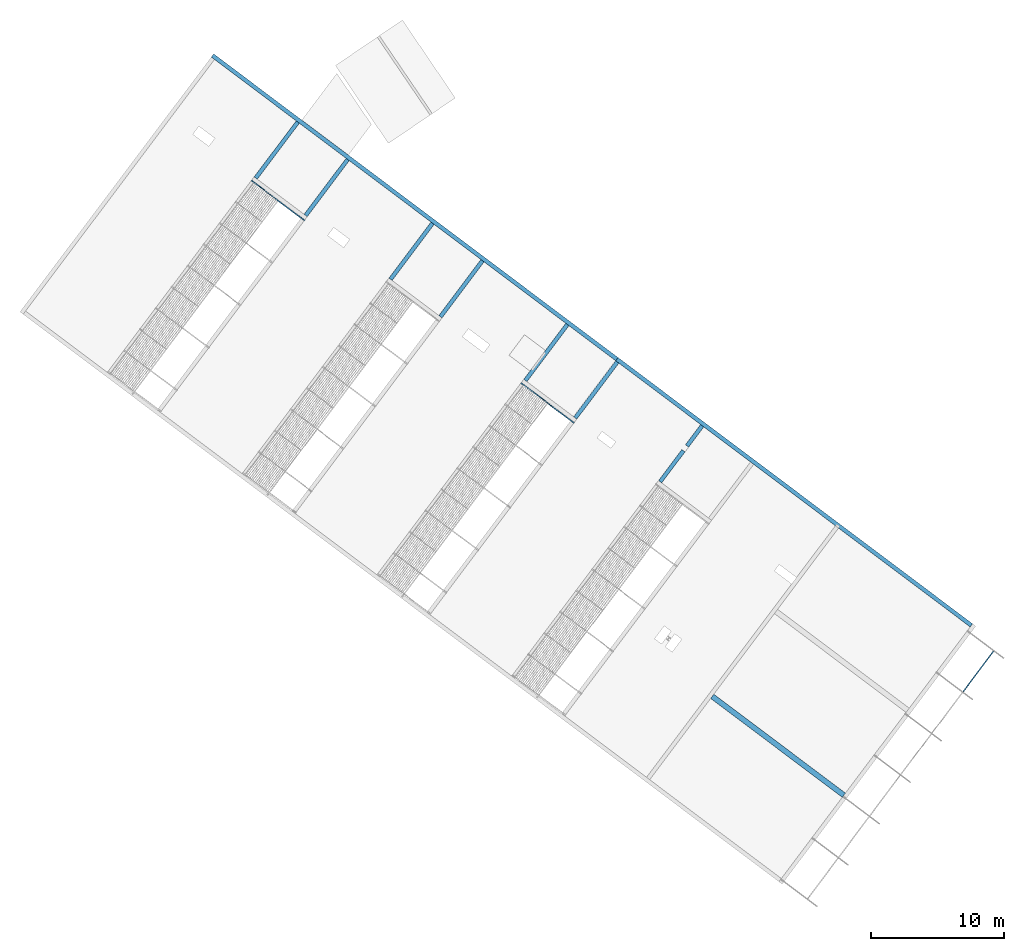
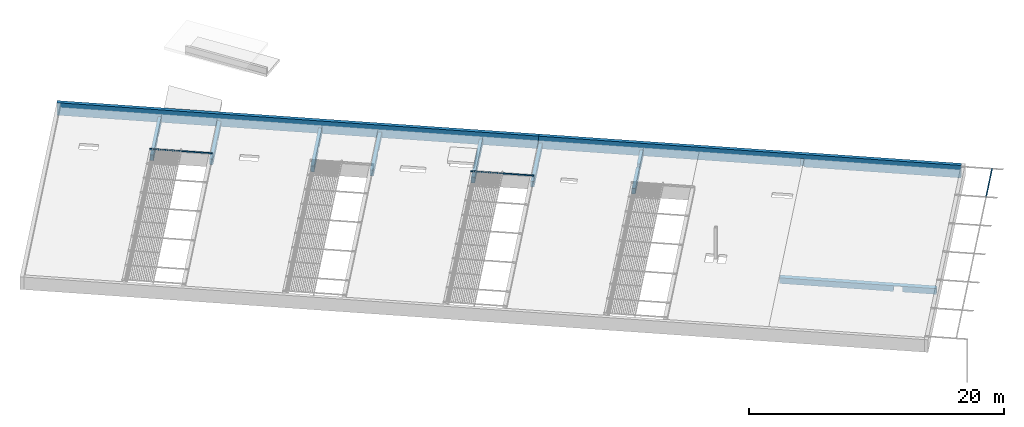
# One storey, part 91 of 95: 13 beams.
"""IFC2X3 building model written with IfcOpenShell, lengths in metres."""

from ifc_helpers import new_model, entity, si_unit, converted_unit, derived_unit, direction, frame, frame_2d, origin, place, context, subcontext, project, spatial, polyline, circle_curve, parameter, trimmed, segment, composite_curve, rectangle, outline, extrude, faceted_brep, source, transform, mapped, material, type_object, type_shapes, element, save


model = new_model("IFC2X3")

# Units and contexts
model_context = context("Model", 3, precision=1e-05, world=origin(), true_north=direction((6.123031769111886e-17, 1.0)))
body_context = subcontext(model_context, "Body", "Model", "MODEL_VIEW")
ifc_project = project(units=[si_unit("LENGTHUNIT", "METRE"), si_unit("AREAUNIT", "SQUARE_METRE"), si_unit("VOLUMEUNIT", "CUBIC_METRE"), converted_unit("PLANEANGLEUNIT", "DEGREE", entity("IfcRatioMeasure", 0.017453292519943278), si_unit("PLANEANGLEUNIT", "RADIAN"), dimensions=[0, 0, 0, 0, 0, 0, 0]), si_unit("MASSUNIT", "GRAM", prefix="KILO"), derived_unit("MASSDENSITYUNIT", [(si_unit("MASSUNIT", "GRAM", prefix="KILO"), 1), (si_unit("LENGTHUNIT", "METRE"), -3)]), derived_unit("IONCONCENTRATIONUNIT", [(si_unit("MASSUNIT", "GRAM", prefix="KILO"), 1), (si_unit("LENGTHUNIT", "METRE"), -3)]), derived_unit("MOMENTOFINERTIAUNIT", [(si_unit("LENGTHUNIT", "METRE"), 4)]), si_unit("TIMEUNIT", "SECOND"), si_unit("FREQUENCYUNIT", "HERTZ"), si_unit("THERMODYNAMICTEMPERATUREUNIT", "DEGREE_CELSIUS"), derived_unit("THERMALTRANSMITTANCEUNIT", [(si_unit("MASSUNIT", "GRAM", prefix="KILO"), 1), (si_unit("THERMODYNAMICTEMPERATUREUNIT", "KELVIN"), -1), (si_unit("TIMEUNIT", "SECOND"), -3)]), derived_unit("THERMALCONDUCTANCEUNIT", [(si_unit("MASSUNIT", "GRAM", prefix="KILO"), 1), (si_unit("THERMODYNAMICTEMPERATUREUNIT", "KELVIN"), -1), (si_unit("TIMEUNIT", "SECOND"), -3), (si_unit("LENGTHUNIT", "METRE"), 1)]), derived_unit("VOLUMETRICFLOWRATEUNIT", [(si_unit("LENGTHUNIT", "METRE"), 3), (si_unit("TIMEUNIT", "SECOND"), -1)]), derived_unit("MASSFLOWRATEUNIT", [(si_unit("MASSUNIT", "GRAM", prefix="KILO"), 1), (si_unit("TIMEUNIT", "SECOND"), -1)]), derived_unit("ROTATIONALFREQUENCYUNIT", [(si_unit("TIMEUNIT", "SECOND"), -1)]), si_unit("ELECTRICCURRENTUNIT", "AMPERE"), si_unit("ELECTRICVOLTAGEUNIT", "VOLT"), si_unit("POWERUNIT", "WATT"), si_unit("FORCEUNIT", "NEWTON", prefix="KILO"), si_unit("ILLUMINANCEUNIT", "LUX"), si_unit("LUMINOUSFLUXUNIT", "LUMEN"), si_unit("LUMINOUSINTENSITYUNIT", "CANDELA"), derived_unit("USERDEFINED", [(si_unit("MASSUNIT", "GRAM", prefix="KILO"), -1), (si_unit("LENGTHUNIT", "METRE"), -2), (si_unit("TIMEUNIT", "SECOND"), 3), (si_unit("LUMINOUSFLUXUNIT", "LUMEN"), 1)]), derived_unit("USERDEFINED", [(si_unit("MASSUNIT", "GRAM", prefix="KILO"), 1), (si_unit("TIMEUNIT", "SECOND"), -3), (si_unit("LENGTHUNIT", "METRE"), 3), (si_unit("ELECTRICCURRENTUNIT", "AMPERE"), -2)]), derived_unit("SOUNDPOWERUNIT", [(si_unit("MASSUNIT", "GRAM", prefix="KILO"), 1), (si_unit("TIMEUNIT", "SECOND"), -3), (si_unit("LENGTHUNIT", "METRE"), 2)]), derived_unit("SOUNDPRESSUREUNIT", [(si_unit("MASSUNIT", "GRAM", prefix="KILO"), 1), (si_unit("LENGTHUNIT", "METRE"), -1), (si_unit("TIMEUNIT", "SECOND"), -2)]), derived_unit("LINEARVELOCITYUNIT", [(si_unit("LENGTHUNIT", "METRE"), 1), (si_unit("TIMEUNIT", "SECOND"), -1)]), si_unit("PRESSUREUNIT", "PASCAL"), derived_unit("USERDEFINED", [(si_unit("MASSUNIT", "GRAM", prefix="KILO"), 1), (si_unit("LENGTHUNIT", "METRE"), -2), (si_unit("TIMEUNIT", "SECOND"), -2)]), derived_unit("LINEARFORCEUNIT", [(si_unit("MASSUNIT", "GRAM", prefix="KILO"), 1), (si_unit("TIMEUNIT", "SECOND"), -2)]), derived_unit("PLANARFORCEUNIT", [(si_unit("MASSUNIT", "GRAM", prefix="KILO"), 1), (si_unit("LENGTHUNIT", "METRE"), -1), (si_unit("TIMEUNIT", "SECOND"), -2)]), derived_unit("SPECIFICHEATCAPACITYUNIT", [(si_unit("THERMODYNAMICTEMPERATUREUNIT", "KELVIN"), -1), (si_unit("LENGTHUNIT", "METRE"), 2), (si_unit("TIMEUNIT", "SECOND"), -2)]), derived_unit("HEATINGVALUEUNIT", [(si_unit("LENGTHUNIT", "METRE"), 2), (si_unit("TIMEUNIT", "SECOND"), -2)]), derived_unit("VAPORPERMEABILITYUNIT", [(si_unit("LENGTHUNIT", "METRE"), -1), (si_unit("TIMEUNIT", "SECOND"), 1)]), derived_unit("DYNAMICVISCOSITYUNIT", [(si_unit("MASSUNIT", "GRAM", prefix="KILO"), 1), (si_unit("TIMEUNIT", "SECOND"), -1), (si_unit("LENGTHUNIT", "METRE"), -1)]), derived_unit("THERMALEXPANSIONCOEFFICIENTUNIT", [(si_unit("THERMODYNAMICTEMPERATUREUNIT", "KELVIN"), -1)]), derived_unit("MODULUSOFELASTICITYUNIT", [(si_unit("MASSUNIT", "GRAM", prefix="KILO"), 1), (si_unit("LENGTHUNIT", "METRE"), -1), (si_unit("TIMEUNIT", "SECOND"), -2)]), derived_unit("ISOTHERMALMOISTURECAPACITYUNIT", [(si_unit("LENGTHUNIT", "METRE"), 3), (si_unit("MASSUNIT", "GRAM", prefix="KILO"), -1)]), derived_unit("MOISTUREDIFFUSIVITYUNIT", [(si_unit("TIMEUNIT", "SECOND"), -1), (si_unit("LENGTHUNIT", "METRE"), 2)])], contexts=[model_context])

# Site, building, storey
site_placement = place(None, origin())
site = spatial("IfcSite", under=ifc_project, at=site_placement, Name="Default", CompositionType="ELEMENT")
building_placement = place(site_placement, frame((0.0, 0.0, 235.0), z_axis=(0.0, 0.0, 1.0), x_axis=(-0.7996477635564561, 0.6004693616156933, 0.0)))
building = spatial("IfcBuilding", under=site, at=building_placement, CompositionType="ELEMENT")
storey_placement = place(building_placement, frame((0.0, 0.0, 3.400000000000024)))
storey = spatial("IfcBuildingStorey", under=building, at=storey_placement, Name="PC- Coberta STR", CompositionType="ELEMENT", Elevation=3.400000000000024)

# Beams
ifc_material_1 = material(Name="_Formigó- T1- STR")
beam_type_1 = type_object("IfcBeamType", Name="STR- V- Formigó- Rectangular- T1:30x120 cm", PredefinedType="NOTDEFINED")
beam_1_placement = place(storey_placement, frame((3.245147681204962, -42.34019175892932, -0.8000000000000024), z_axis=(0.0, 0.0, 1.0), x_axis=(-1.0, 0.0, 0.0)))
element("IfcBeam", 1, at=beam_1_placement, inside=storey, type_object=beam_type_1, material=ifc_material_1, Name="STR- V- Formigó- Rectangular- T1:30x120 cm", ObjectType="STR- V- Formigó- Rectangular- T1:30x120 cm", context=body_context, shape_type="Brep", body=[
    faceted_brep([(-33.4, 0.0, 1.2000000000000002), (-33.39999999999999, -0.30000000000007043, 1.2000000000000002), (0.0, -0.30000000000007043, 1.2000000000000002), (0.0, 0.0, 1.2000000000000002), (-12.699999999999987, -0.30000000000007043, 0.8000000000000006), (-12.399999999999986, -0.30000000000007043, 0.8000000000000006), (-12.399999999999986, -0.30000000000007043, 0.5500000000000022), (-12.399999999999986, -0.30000000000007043, 0.0), (-6.800000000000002, -0.30000000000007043, 0.0), (0.0, -0.30000000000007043, 0.0), (0.0, -0.30000000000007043, 0.5500000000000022), (0.0, -0.30000000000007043, 0.8000000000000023), (-33.4, -0.30000000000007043, 0.8000000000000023), (-33.4, -0.30000000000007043, 0.5500000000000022), (-33.4, -0.30000000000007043, 0.0), (-33.099999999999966, -0.30000000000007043, 0.0), (-25.39999999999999, -0.3000000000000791, 0.0), (-25.09999999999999, -0.30000000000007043, 0.0), (-20.699999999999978, -0.30000000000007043, 0.0), (-20.399999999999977, -0.30000000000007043, 0.0), (-12.699999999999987, -0.30000000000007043, 0.0), (-12.699999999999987, -0.30000000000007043, 0.5500000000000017), (-12.399999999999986, -0.13729999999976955, 0.0), (-12.699999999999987, -0.13729999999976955, 0.0), (-33.39999999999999, 0.0, 0.0), (-6.8000000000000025, 0.0, 0.0), (0.0, 0.0, 0.0), (-12.399999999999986, -0.13729999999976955, 0.8000000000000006), (-12.699999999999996, -0.13729999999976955, 0.8000000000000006)], [[[0, 1, 2, 3]], [[4, 5, 6, 7, 8, 9, 10, 11, 2, 1, 12, 13, 14, 15, 16, 17, 18, 19, 20, 21]], [[22, 23, 20, 19, 18, 17, 16, 15, 14, 24, 25, 26, 9, 8, 7]], [[24, 0, 3, 26, 25]], [[27, 28, 23, 22]], [[28, 27, 5, 4]], [[27, 22, 7, 6, 5]], [[23, 28, 4, 21, 20]], [[3, 2, 11, 10, 9, 26]], [[0, 24, 14, 13, 12, 1]]]),
])
beam_2_placement = place(storey_placement, frame((74.59514768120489, -42.19019175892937, 0.4), z_axis=(0.0, 0.0, 1.0), x_axis=(-1.0, 0.0, 0.0)))
element("IfcBeam", 2, at=beam_2_placement, inside=storey, type_object=beam_type_1, material=ifc_material_1, Name="STR- V- Formigó- Rectangular- T1:30x120 cm", ObjectType="STR- V- Formigó- Rectangular- T1:30x120 cm", context=body_context, shape_type="SweptSolid", body=[
    extrude(rectangle(XDim=1.1999999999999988, YDim=0.30000000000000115, at=frame_2d((0.0, 1.2127798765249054e-13), x_axis=(1.0, 0.0))), frame((-0.14999999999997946, 0.0, -0.6000000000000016), z_axis=(1.0, 0.0, 0.0), x_axis=(0.0, 0.0, -1.0)), (0.0, 0.0, 1.0), 38.09999999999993),
])
beam_type_2 = type_object("IfcBeamType", Name="STR- V- Formigó- Rectangular- T1:30x80 cm", PredefinedType="NOTDEFINED")
beam_3_placement = place(storey_placement, frame((49.04514768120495, -42.040191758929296, -0.800000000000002), z_axis=(0.0, 0.0, 1.0), x_axis=(0.0, -1.0, 0.0)))
element("IfcBeam", 3, at=beam_3_placement, inside=storey, type_object=beam_type_2, material=ifc_material_1, Name="STR- V- Formigó- Rectangular- T1:30x80 cm", ObjectType="STR- V- Formigó- Rectangular- T1:30x80 cm", context=body_context, shape_type="Brep", body=[
    faceted_brep([(-1.8999999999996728, 0.0, 0.5000000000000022), (-1.8999999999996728, 0.0, 0.0), (0.0, 0.0, 0.0), (0.0, 0.0, 0.5500000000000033), (-5.274999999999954, 0.0, 0.5500000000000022), (-5.274999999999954, 0.0, 0.0), (-2.3499999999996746, 0.0, 0.0), (-2.3499999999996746, 0.0, 0.5000000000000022), (-1.8999999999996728, 0.3000000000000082, 0.0), (0.0, 0.3000000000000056, 0.0), (-1.8999999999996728, 0.3000000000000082, 0.5000000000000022), (-2.3499999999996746, 0.30000000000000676, 0.5000000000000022), (-2.3499999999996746, 0.30000000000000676, 0.0), (-5.274999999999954, 0.3000000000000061, 0.0), (-5.274999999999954, 0.3000000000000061, 0.5500000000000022), (0.0, 0.3000000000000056, 0.5500000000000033)], [[[0, 1, 2, 3, 4, 5, 6, 7]], [[1, 8, 9, 2]], [[8, 10, 11, 12, 13, 14, 15, 9]], [[3, 15, 14, 4]], [[0, 10, 8, 1]], [[11, 7, 6, 12]], [[10, 0, 7, 11]], [[12, 6, 5, 13]], [[3, 2, 9, 15]], [[5, 4, 14, 13]]]),
])
beam_4_placement = place(storey_placement, frame((53.745147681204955, -42.04019175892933, -0.8000000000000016), z_axis=(0.0, 0.0, 1.0), x_axis=(0.0, -1.0, 0.0)))
element("IfcBeam", 4, at=beam_4_placement, inside=storey, type_object=beam_type_2, material=ifc_material_1, Name="STR- V- Formigó- Rectangular- T1:30x80 cm", ObjectType="STR- V- Formigó- Rectangular- T1:30x80 cm", context=body_context, shape_type="Brep", body=[
    faceted_brep([(0.0, 0.29999999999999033, 0.5500000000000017), (0.0, 0.29999999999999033, 0.0), (-1.8999999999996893, 0.29999999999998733, 0.0), (-1.8999999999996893, 0.29999999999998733, 0.5000000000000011), (-2.349999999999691, 0.2999999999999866, 0.5000000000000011), (-2.349999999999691, 0.2999999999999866, 0.0), (-5.27499999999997, 0.2999999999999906, 0.0), (-5.27499999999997, 0.2999999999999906, 0.5500000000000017), (0.0, 0.0, 0.0), (-1.8999999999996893, 0.0, 0.0), (0.0, 0.0, 0.5500000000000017), (-5.27499999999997, 0.0, 0.5500000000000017), (-5.27499999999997, 0.0, 0.0), (-2.349999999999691, 0.0, 0.0), (-2.349999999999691, 0.0, 0.5000000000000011), (-1.8999999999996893, 0.0, 0.5000000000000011)], [[[0, 1, 2, 3, 4, 5, 6, 7]], [[1, 8, 9, 2]], [[8, 10, 11, 12, 13, 14, 15, 9]], [[10, 0, 7, 11]], [[8, 1, 0, 10]], [[15, 3, 2, 9]], [[4, 14, 13, 5]], [[3, 15, 14, 4]], [[5, 13, 12, 6]], [[7, 6, 12, 11]]]),
])
beam_5_placement = place(storey_placement, frame((61.745147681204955, -42.04019175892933, -0.800000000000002), z_axis=(0.0, 0.0, 1.0), x_axis=(0.0, -1.0, 0.0)))
element("IfcBeam", 5, at=beam_5_placement, inside=storey, type_object=beam_type_2, material=ifc_material_1, Name="STR- V- Formigó- Rectangular- T1:30x80 cm", ObjectType="STR- V- Formigó- Rectangular- T1:30x80 cm", context=body_context, shape_type="Brep", body=[
    faceted_brep([(-5.274999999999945, 0.0, 0.0), (-2.3499999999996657, 0.0, 0.0), (-2.3499999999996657, 0.0, 0.5000000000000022), (-1.8999999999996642, 0.0, 0.5000000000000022), (-1.8999999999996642, 0.0, 0.0), (0.0, 0.0, 0.0), (0.0, 0.0, 0.5500000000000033), (-5.274999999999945, 0.0, 0.5500000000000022), (-1.8999999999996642, 0.3000000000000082, 0.0), (0.0, 0.3000000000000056, 0.0), (-2.3499999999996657, 0.30000000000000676, 0.0), (-5.274999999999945, 0.3000000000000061, 0.0), (-5.274999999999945, 0.3000000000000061, 0.5500000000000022), (0.0, 0.3000000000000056, 0.5500000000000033), (-1.8999999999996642, 0.3000000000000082, 0.5000000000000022), (-2.3499999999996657, 0.30000000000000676, 0.5000000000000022)], [[[0, 1, 2, 3, 4, 5, 6, 7]], [[4, 8, 9, 5]], [[10, 11, 12, 13, 9, 8, 14, 15]], [[11, 0, 7, 12]], [[3, 14, 8, 4]], [[15, 2, 1, 10]], [[14, 3, 2, 15]], [[0, 11, 10, 1]], [[7, 6, 13, 12]], [[6, 5, 9, 13]]]),
])
beam_6_placement = place(storey_placement, frame((66.44514768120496, -42.04019175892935, -0.8000000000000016), z_axis=(0.0, 0.0, 1.0), x_axis=(0.0, -1.0, 0.0)))
element("IfcBeam", 6, at=beam_6_placement, inside=storey, type_object=beam_type_2, material=ifc_material_1, Name="STR- V- Formigó- Rectangular- T1:30x80 cm", ObjectType="STR- V- Formigó- Rectangular- T1:30x80 cm", context=body_context, shape_type="Brep", body=[
    faceted_brep([(-2.3499999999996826, 0.29999999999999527, 0.0), (-5.274999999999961, 0.29999999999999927, 0.0), (-5.274999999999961, 0.29999999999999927, 0.5500000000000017), (0.0, 0.299999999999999, 0.5500000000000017), (0.0, 0.299999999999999, 0.0), (-1.8999999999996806, 0.299999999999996, 0.0), (-1.8999999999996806, 0.299999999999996, 0.5000000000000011), (-2.3499999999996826, 0.29999999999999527, 0.5000000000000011), (-1.8999999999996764, 0.0, 0.0), (0.0, 0.0, 0.0), (-5.274999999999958, 0.0, 0.0), (-2.349999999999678, 0.0, 0.0), (-2.349999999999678, 0.0, 0.5000000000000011), (-1.8999999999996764, 0.0, 0.5000000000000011), (0.0, 0.0, 0.5500000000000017), (-5.274999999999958, 0.0, 0.5500000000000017)], [[[0, 1, 2, 3, 4, 5, 6, 7]], [[8, 5, 4, 9]], [[10, 11, 12, 13, 8, 9, 14, 15]], [[1, 10, 15, 2]], [[13, 6, 5, 8]], [[7, 12, 11, 0]], [[6, 13, 12, 7]], [[10, 1, 0, 11]], [[3, 2, 15, 14]], [[4, 3, 14, 9]]]),
])
beam_7_placement = place(storey_placement, frame((36.34514768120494, -42.04019175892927, -0.800000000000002), z_axis=(0.0, 0.0, 1.0), x_axis=(0.0, -1.0, 0.0)))
element("IfcBeam", 7, at=beam_7_placement, inside=storey, type_object=beam_type_2, material=ifc_material_1, Name="STR- V- Formigó- Rectangular- T1:30x80 cm", ObjectType="STR- V- Formigó- Rectangular- T1:30x80 cm", context=body_context, shape_type="Brep", body=[
    faceted_brep([(-5.274999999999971, 0.0, 0.0), (-2.349999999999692, 0.0, 0.0), (-2.349999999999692, 0.0, 0.5000000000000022), (-1.8999999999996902, 0.0, 0.5000000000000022), (-1.8999999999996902, 0.0, 0.0), (0.0, 0.0, 0.0), (0.0, 0.0, 0.5500000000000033), (-5.274999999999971, 0.0, 0.5500000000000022), (-1.8999999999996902, 0.3000000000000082, 0.0), (0.0, 0.30000000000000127, 0.0), (-2.349999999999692, 0.30000000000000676, 0.0), (-5.274999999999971, 0.3000000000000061, 0.0), (-5.274999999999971, 0.3000000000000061, 0.5500000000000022), (0.0, 0.3000000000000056, 0.5500000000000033), (-1.8999999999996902, 0.3000000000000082, 0.5000000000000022), (-2.349999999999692, 0.30000000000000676, 0.5000000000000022)], [[[0, 1, 2, 3, 4, 5, 6, 7]], [[4, 8, 9, 5]], [[10, 11, 12, 13, 9, 8, 14, 15]], [[11, 0, 7, 12]], [[3, 14, 8, 4]], [[15, 2, 1, 10]], [[14, 3, 2, 15]], [[0, 11, 10, 1]], [[7, 6, 13, 12]], [[6, 5, 9, 13]]]),
])
beam_8_placement = place(storey_placement, frame((41.04514768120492, -42.040191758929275, -0.8000000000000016), z_axis=(0.0, 0.0, 1.0), x_axis=(0.0, -1.0, 0.0)))
element("IfcBeam", 8, at=beam_8_placement, inside=storey, type_object=beam_type_2, material=ifc_material_1, Name="STR- V- Formigó- Rectangular- T1:30x80 cm", ObjectType="STR- V- Formigó- Rectangular- T1:30x80 cm", context=body_context, shape_type="Brep", body=[
    faceted_brep([(-2.3499999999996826, 0.3000000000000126, 0.0), (-5.274999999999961, 0.3000000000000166, 0.0), (-5.274999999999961, 0.3000000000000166, 0.5500000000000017), (-4.3470018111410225, 0.3000000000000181, 0.5500000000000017), (-2.707001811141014, 0.3000000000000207, 0.5500000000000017), (0.0, 0.3000000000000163, 0.5500000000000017), (0.0, 0.3000000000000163, 0.0), (-1.8999999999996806, 0.3000000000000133, 0.0), (-1.8999999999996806, 0.3000000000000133, 0.5000000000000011), (-2.3499999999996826, 0.3000000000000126, 0.5000000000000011), (-1.8999999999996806, 0.0, 0.0), (0.0, 0.0, 0.0), (-5.274999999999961, 0.0, 0.0), (-2.3499999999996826, 0.0, 0.0), (-2.3499999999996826, 0.0, 0.5000000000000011), (-1.8999999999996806, 0.0, 0.5000000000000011), (0.0, 0.0, 0.5500000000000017), (-5.274999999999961, 0.0, 0.5500000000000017)], [[[0, 1, 2, 3, 4, 5, 6, 7, 8, 9]], [[10, 7, 6, 11]], [[12, 13, 14, 15, 10, 11, 16, 17]], [[1, 12, 17, 2]], [[15, 8, 7, 10]], [[9, 14, 13, 0]], [[8, 15, 14, 9]], [[12, 1, 0, 13]], [[3, 2, 17, 16, 5, 4]], [[6, 5, 16, 11]]]),
])
beam_type_3 = type_object("IfcBeamType", Name="STR- V- Formigó- Rectangular- T1:40x80 cm", PredefinedType="NOTDEFINED")
beam_9_placement = place(storey_placement, frame((3.2451476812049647, -26.39019175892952, -0.8000000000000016)))
element("IfcBeam", 9, at=beam_9_placement, inside=storey, type_object=beam_type_3, material=ifc_material_1, Name="STR- V- Formigó- Rectangular- T1:40x80 cm", ObjectType="STR- V- Formigó- Rectangular- T1:40x80 cm", context=body_context, shape_type="Brep", body=[
    faceted_brep([(3.4000000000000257, 0.0, 0.0), (12.400000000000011, 0.0, 0.0), (12.400000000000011, 0.0, 0.5500000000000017), (0.0, 0.0, 0.5500000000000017), (0.0, 0.0, 0.0), (2.700000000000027, 0.0, 0.0), (2.700000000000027, 0.0, 0.5000000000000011), (3.4000000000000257, 0.0, 0.5000000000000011), (12.400000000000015, 0.400000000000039, 0.0), (3.400000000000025, 0.400000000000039, 0.0), (3.400000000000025, 0.400000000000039, 0.5000000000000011), (2.7000000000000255, 0.400000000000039, 0.5000000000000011), (2.7000000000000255, 0.400000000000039, 0.0), (0.0, 0.400000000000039, 0.0), (0.0, 0.400000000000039, 0.5500000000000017), (12.400000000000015, 0.400000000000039, 0.5500000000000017)], [[[0, 1, 2, 3, 4, 5, 6, 7]], [[8, 1, 0, 9]], [[8, 9, 10, 11, 12, 13, 14, 15]], [[1, 8, 15, 2]], [[7, 10, 9, 0]], [[11, 6, 5, 12]], [[10, 7, 6, 11]], [[12, 5, 4, 13]], [[13, 4, 3, 14]], [[3, 2, 15, 14]]]),
])
beam_type_4 = type_object("IfcBeamType", Name="STR- V- Formigó- Rectangular- T1:30x80 cm", PredefinedType="BEAM", material=ifc_material_1)
shared_shape = source(origin(), body_context, "Body", "SweptSolid", [
    extrude(rectangle(XDim=0.5500000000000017, YDim=0.3000000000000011, at=frame_2d((-2.1649348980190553e-15, 0.0), x_axis=(0.0, 1.0))), frame((28.49514768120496, -40.140191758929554, 2.875000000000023), z_axis=(0.0, -1.0, 0.0), x_axis=(-1.0, 0.0, 0.0)), (0.0, 0.0, 1.0), 1.8999999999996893),
    extrude(rectangle(XDim=0.5500000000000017, YDim=0.30000000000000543, at=frame_2d((2.1649348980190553e-15, 0.0), x_axis=(0.0, 1.0))), frame((28.495147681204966, -36.76519175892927, 2.875000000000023), z_axis=(0.0, -1.0, 0.0), x_axis=(-1.0, 0.0, 0.0)), (0.0, 0.0, 1.0), 2.92500000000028),
])
type_shapes(beam_type_4, [shared_shape])
beam_10_placement = place(storey_placement, frame((0.0, 0.0, -3.400000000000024)))
element("IfcBeam", 10, at=beam_10_placement, inside=storey, type_object=beam_type_4, material=ifc_material_1, Name="STR- V- Formigó- Rectangular- T1:30x80 cm", ObjectType="STR- V- Formigó- Rectangular- T1:30x80 cm", context=body_context, shape_type="MappedRepresentation", body=[
    mapped(shared_shape, transform((0.0, 0.0, 0.0), scale=1.0)),
])
ifc_material_2 = material(Name="_Acer- STR")
beam_type_5 = type_object("IfcBeamType", Name="STR- V- Acer- RHS- Rectangular- T1:120x60RHS", PredefinedType="NOTDEFINED")
beam_11_placement = place(storey_placement, frame((0.7163088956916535, -41.64701323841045, 0.49840472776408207), z_axis=(0.0, 0.0, 1.0), x_axis=(0.0, -1.0, 0.0)))
element("IfcBeam", 11, at=beam_11_placement, inside=storey, type_object=beam_type_5, material=ifc_material_2, Name="STR- V- Acer- RHS- Rectangular- T1:120x60RHS", ObjectType="STR- V- Acer- RHS- Rectangular- T1:120x60RHS", context=body_context, shape_type="SweptSolid", body=[
    extrude(outline(composite_curve([segment(trimmed(circle_curve(frame_2d((-0.022000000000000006, -0.05200000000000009), x_axis=(1.0, 0.0)), 0.008), [parameter(180.0000000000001)], [parameter(269.99999999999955)], True, "PARAMETER"), True, "CONTINUOUS"), segment(polyline([(-0.021999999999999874, -0.0599999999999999), (0.022000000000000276, -0.0599999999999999)]), True, "CONTINUOUS"), segment(trimmed(circle_curve(frame_2d((0.022000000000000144, -0.05200000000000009), x_axis=(1.0, 0.0)), 0.008), [parameter(269.99999999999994)], [parameter(5.088887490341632e-14)], True, "PARAMETER"), True, "CONTINUOUS"), segment(polyline([(0.030000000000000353, -0.05200000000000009), (0.030000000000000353, 0.05200000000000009)]), True, "CONTINUOUS"), segment(trimmed(circle_curve(frame_2d((0.022000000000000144, 0.05200000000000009), x_axis=(1.0, 0.0)), 0.008), [parameter(359.99999999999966)], [parameter(89.99999999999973)], True, "PARAMETER"), True, "CONTINUOUS"), segment(polyline([(0.022000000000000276, 0.059999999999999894), (-0.021999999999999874, 0.059999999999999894)]), True, "CONTINUOUS"), segment(trimmed(circle_curve(frame_2d((-0.022000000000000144, 0.05200000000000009), x_axis=(1.0, 0.0)), 0.008), [parameter(90.00000000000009)], [parameter(180.00000000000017)], True, "PARAMETER"), True, "CONTINUOUS"), segment(polyline([(-0.02999999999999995, 0.05200000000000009), (-0.02999999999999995, -0.05200000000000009)]), True, "CONTINUOUS")], self_intersect=False), holes=[composite_curve([segment(polyline([(0.022000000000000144, -0.05600000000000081), (-0.021999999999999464, -0.05600000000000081)]), True, "CONTINUOUS"), segment(trimmed(circle_curve(frame_2d((-0.021999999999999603, -0.05200000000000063), x_axis=(1.0, 0.0)), 0.004), [parameter(179.99999999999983)], [parameter(269.9999999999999)], True, "PARAMETER"), False, "CONTINUOUS"), segment(polyline([(-0.025999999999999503, -0.05200000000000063), (-0.025999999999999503, 0.051999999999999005)]), True, "CONTINUOUS"), segment(trimmed(circle_curve(frame_2d((-0.021999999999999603, 0.051999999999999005), x_axis=(1.0, 0.0)), 0.004), [parameter(90.00000000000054)], [parameter(180.00000000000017)], True, "PARAMETER"), False, "CONTINUOUS"), segment(polyline([(-0.021999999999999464, 0.055999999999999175), (0.022000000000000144, 0.055999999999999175)]), True, "CONTINUOUS"), segment(trimmed(circle_curve(frame_2d((0.021999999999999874, 0.051999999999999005), x_axis=(1.0, 0.0)), 0.004), [parameter(0.0)], [parameter(90.00000000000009)], True, "PARAMETER"), False, "CONTINUOUS"), segment(polyline([(0.026000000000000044, 0.051999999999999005), (0.026000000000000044, -0.05200000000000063)]), True, "CONTINUOUS"), segment(trimmed(circle_curve(frame_2d((0.021999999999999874, -0.05200000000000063), x_axis=(1.0, 0.0)), 0.004), [parameter(270.00000000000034)], [parameter(3.5622212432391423e-13)], True, "PARAMETER"), False, "CONTINUOUS")], self_intersect=False)]), frame((-3.840122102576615, 0.03159527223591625, 0.06159527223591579), z_axis=(1.0, 0.0, 0.0), x_axis=(0.0, -1.0, 0.0)), (0.0, 0.0, 1.0), 3.8401221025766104),
])
beam_12_placement = place(storey_placement, frame((36.34514768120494, -36.446787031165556, 0.49840472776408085), z_axis=(0.0, 0.0, 1.0), x_axis=(-1.0, 0.0, 0.0)))
element("IfcBeam", 12, at=beam_12_placement, inside=storey, type_object=beam_type_5, material=ifc_material_2, Name="STR- V- Acer- RHS- Rectangular- T1:120x60RHS", ObjectType="STR- V- Acer- RHS- Rectangular- T1:120x60RHS", context=body_context, shape_type="SweptSolid", body=[
    extrude(outline(composite_curve([segment(trimmed(circle_curve(frame_2d((-0.02199999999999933, -0.05200000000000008), x_axis=(1.0, 0.0)), 0.008), [parameter(180.0000000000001)], [parameter(269.99999999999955)], True, "PARAMETER"), True, "CONTINUOUS"), segment(polyline([(-0.022000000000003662, -0.05999999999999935), (0.021999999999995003, -0.05999999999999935)]), True, "CONTINUOUS"), segment(trimmed(circle_curve(frame_2d((0.021999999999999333, -0.05200000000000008), x_axis=(1.0, 0.0)), 0.008), [parameter(269.99999999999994)], [parameter(5.088887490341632e-14)], True, "PARAMETER"), True, "CONTINUOUS"), segment(polyline([(0.029999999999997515, -0.05199999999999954), (0.029999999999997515, 0.052000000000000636)]), True, "CONTINUOUS"), segment(trimmed(circle_curve(frame_2d((0.021999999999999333, 0.052000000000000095), x_axis=(1.0, 0.0)), 0.008), [parameter(359.99999999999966)], [parameter(89.99999999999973)], True, "PARAMETER"), True, "CONTINUOUS"), segment(polyline([(0.021999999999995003, 0.06000000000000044), (-0.022000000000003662, 0.06000000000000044)]), True, "CONTINUOUS"), segment(trimmed(circle_curve(frame_2d((-0.02199999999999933, 0.052000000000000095), x_axis=(1.0, 0.0)), 0.008), [parameter(90.00000000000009)], [parameter(180.00000000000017)], True, "PARAMETER"), True, "CONTINUOUS"), segment(polyline([(-0.03000000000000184, 0.052000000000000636), (-0.03000000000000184, -0.05199999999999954)]), True, "CONTINUOUS")], self_intersect=False), holes=[composite_curve([segment(polyline([(0.021999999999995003, -0.056000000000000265), (-0.022000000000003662, -0.056000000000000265)]), True, "CONTINUOUS"), segment(trimmed(circle_curve(frame_2d((-0.02199999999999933, -0.05200000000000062), x_axis=(1.0, 0.0)), 0.004), [parameter(179.99999999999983)], [parameter(269.9999999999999)], True, "PARAMETER"), False, "CONTINUOUS"), segment(polyline([(-0.02600000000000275, -0.05200000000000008), (-0.02600000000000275, 0.051999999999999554)]), True, "CONTINUOUS"), segment(trimmed(circle_curve(frame_2d((-0.02199999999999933, 0.05199999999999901), x_axis=(1.0, 0.0)), 0.004), [parameter(90.00000000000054)], [parameter(180.00000000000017)], True, "PARAMETER"), False, "CONTINUOUS"), segment(polyline([(-0.022000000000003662, 0.055999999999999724), (0.021999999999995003, 0.055999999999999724)]), True, "CONTINUOUS"), segment(trimmed(circle_curve(frame_2d((0.021999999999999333, 0.05199999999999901), x_axis=(1.0, 0.0)), 0.004), [parameter(0.0)], [parameter(90.00000000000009)], True, "PARAMETER"), False, "CONTINUOUS"), segment(polyline([(0.02599999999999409, 0.051999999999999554), (0.02599999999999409, -0.05200000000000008)]), True, "CONTINUOUS"), segment(trimmed(circle_curve(frame_2d((0.021999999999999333, -0.05200000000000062), x_axis=(1.0, 0.0)), 0.004), [parameter(270.00000000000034)], [parameter(3.5622212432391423e-13)], True, "PARAMETER"), False, "CONTINUOUS")], self_intersect=False)]), frame((-5.0, -0.03159527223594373, 0.061595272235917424), z_axis=(1.0, 0.0, 0.0), x_axis=(0.0, -1.0, 0.0)), (0.0, 0.0, 1.0), 5.000000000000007),
])
beam_13_placement = place(storey_placement, frame((61.745147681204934, -36.446787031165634, 0.49840472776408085), z_axis=(0.0, 0.0, 1.0), x_axis=(-1.0, 0.0, 0.0)))
element("IfcBeam", 13, at=beam_13_placement, inside=storey, type_object=beam_type_5, material=ifc_material_2, Name="STR- V- Acer- RHS- Rectangular- T1:120x60RHS", ObjectType="STR- V- Acer- RHS- Rectangular- T1:120x60RHS", context=body_context, shape_type="SweptSolid", body=[
    extrude(outline(composite_curve([segment(trimmed(circle_curve(frame_2d((-0.021999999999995, -0.05200000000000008), x_axis=(1.0, 0.0)), 0.008), [parameter(180.0000000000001)], [parameter(269.99999999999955)], True, "PARAMETER"), True, "CONTINUOUS"), segment(polyline([(-0.021999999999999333, -0.05999999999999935), (0.021999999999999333, -0.05999999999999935)]), True, "CONTINUOUS"), segment(trimmed(circle_curve(frame_2d((0.022000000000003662, -0.05200000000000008), x_axis=(1.0, 0.0)), 0.008), [parameter(269.99999999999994)], [parameter(5.088887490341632e-14)], True, "PARAMETER"), True, "CONTINUOUS"), segment(polyline([(0.030000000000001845, -0.05199999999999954), (0.030000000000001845, 0.052000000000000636)]), True, "CONTINUOUS"), segment(trimmed(circle_curve(frame_2d((0.022000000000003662, 0.052000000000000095), x_axis=(1.0, 0.0)), 0.008), [parameter(359.99999999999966)], [parameter(89.99999999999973)], True, "PARAMETER"), True, "CONTINUOUS"), segment(polyline([(0.021999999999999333, 0.06000000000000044), (-0.021999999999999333, 0.06000000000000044)]), True, "CONTINUOUS"), segment(trimmed(circle_curve(frame_2d((-0.021999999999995, 0.052000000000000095), x_axis=(1.0, 0.0)), 0.008), [parameter(90.00000000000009)], [parameter(180.00000000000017)], True, "PARAMETER"), True, "CONTINUOUS"), segment(polyline([(-0.02999999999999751, 0.052000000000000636), (-0.02999999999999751, -0.05199999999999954)]), True, "CONTINUOUS")], self_intersect=False), holes=[composite_curve([segment(polyline([(0.021999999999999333, -0.056000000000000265), (-0.021999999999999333, -0.056000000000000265)]), True, "CONTINUOUS"), segment(trimmed(circle_curve(frame_2d((-0.021999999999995, -0.05200000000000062), x_axis=(1.0, 0.0)), 0.004), [parameter(179.99999999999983)], [parameter(269.9999999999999)], True, "PARAMETER"), False, "CONTINUOUS"), segment(polyline([(-0.02599999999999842, -0.05200000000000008), (-0.02599999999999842, 0.051999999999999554)]), True, "CONTINUOUS"), segment(trimmed(circle_curve(frame_2d((-0.021999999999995, 0.05199999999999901), x_axis=(1.0, 0.0)), 0.004), [parameter(90.00000000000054)], [parameter(180.00000000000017)], True, "PARAMETER"), False, "CONTINUOUS"), segment(polyline([(-0.021999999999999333, 0.055999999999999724), (0.021999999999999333, 0.055999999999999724)]), True, "CONTINUOUS"), segment(trimmed(circle_curve(frame_2d((0.022000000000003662, 0.05199999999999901), x_axis=(1.0, 0.0)), 0.004), [parameter(0.0)], [parameter(90.00000000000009)], True, "PARAMETER"), False, "CONTINUOUS"), segment(polyline([(0.02599999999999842, 0.051999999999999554), (0.02599999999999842, -0.05200000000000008)]), True, "CONTINUOUS"), segment(trimmed(circle_curve(frame_2d((0.022000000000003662, -0.05200000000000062), x_axis=(1.0, 0.0)), 0.004), [parameter(270.00000000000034)], [parameter(3.5622212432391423e-13)], True, "PARAMETER"), False, "CONTINUOUS")], self_intersect=False)]), frame((-5.0, -0.0315952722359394, 0.061595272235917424), z_axis=(1.0, 0.0, 0.0), x_axis=(0.0, -1.0, 0.0)), (0.0, 0.0, 1.0), 5.000000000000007),
])

save(model, "model.ifc")
